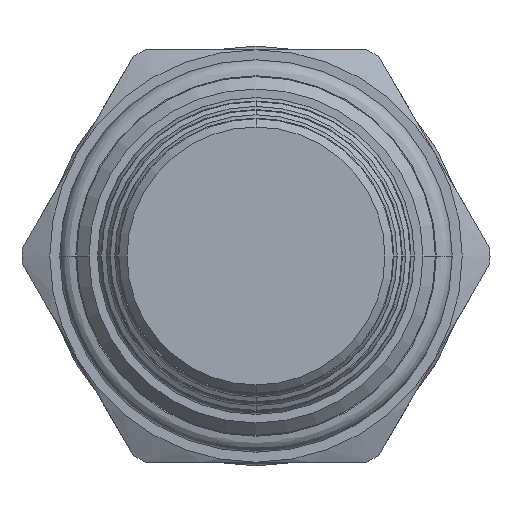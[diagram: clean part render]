
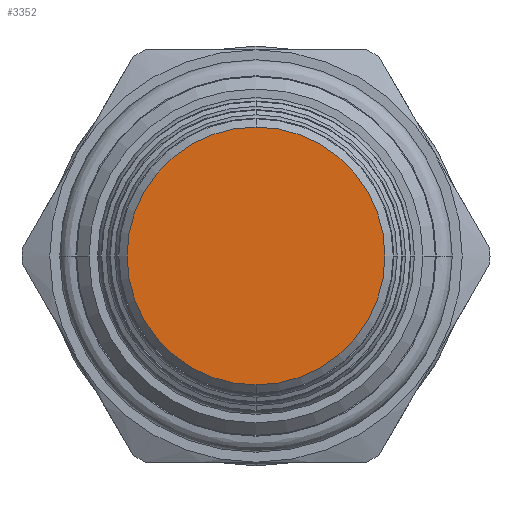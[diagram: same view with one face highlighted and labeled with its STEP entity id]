
A CAD part, front view. The second image highlights one B-rep face of the part: STEP entity #3352.
In plain terms, the highlighted planar face has unit normal (0, -1, 0).
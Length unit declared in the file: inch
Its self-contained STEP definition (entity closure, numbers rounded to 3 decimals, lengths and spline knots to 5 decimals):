
#1264=CARTESIAN_POINT('',(0.,-3.996,0.));
#1265=DIRECTION('',(0.,1.,0.));
#1266=DIRECTION('',(0.,0.,1.));
#1267=AXIS2_PLACEMENT_3D('',#1264,#1265,#1266);
#1282=CARTESIAN_POINT('',(0.,-3.996,0.));
#1283=DIRECTION('',(0.,1.,0.));
#1284=DIRECTION('',(0.,0.,-1.));
#1285=AXIS2_PLACEMENT_3D('',#1282,#1283,#1284);
#1523=CARTESIAN_POINT('',(0.,-3.996,-0.469));
#1524=CARTESIAN_POINT('',(0.,-3.996,0.469));
#1525=VERTEX_POINT('',#1523);
#1526=VERTEX_POINT('',#1524);
#3342=CARTESIAN_POINT('',(0.,-3.996,0.));
#3343=DIRECTION('',(0.,-1.,0.));
#3344=DIRECTION('',(0.,0.,-1.));
#3345=AXIS2_PLACEMENT_3D('',#3342,#3343,#3344);
#3346=PLANE('',#3345);
#3347=ORIENTED_EDGE('',*,*,#3332,.T.);
#3349=ORIENTED_EDGE('',*,*,#3348,.T.);
#3350=EDGE_LOOP('',(#3347,#3349));
#3351=FACE_OUTER_BOUND('',#3350,.F.);
#3352=ADVANCED_FACE('',(#3351),#3346,.T.);
#1268=CIRCLE('',#1267,0.469);
#1286=CIRCLE('',#1285,0.469);
#3332=EDGE_CURVE('',#1526,#1525,#1268,.T.);
#3348=EDGE_CURVE('',#1525,#1526,#1286,.T.);
